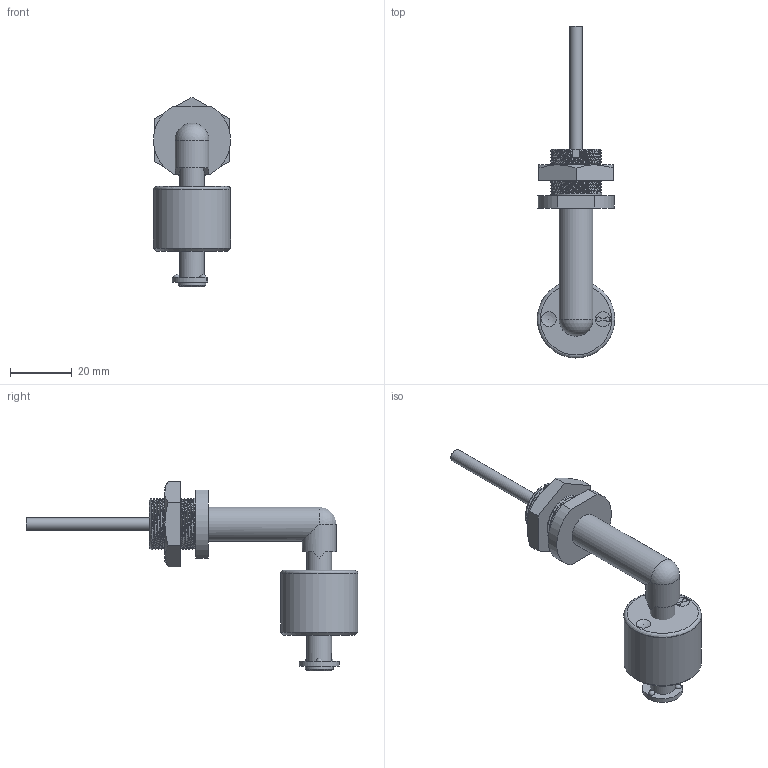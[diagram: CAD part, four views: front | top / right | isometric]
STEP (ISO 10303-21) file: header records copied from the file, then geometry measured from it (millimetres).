
FILE_DESCRIPTION(/* description */ ('Katalogmodell Elobau'),/* implementation_level */ '2;1');
FILE_NAME(/* name */ '2018_0_A.stp',/* time_stamp */ '2014-10-08T14:28:59+02:00',/* author */ ('Elobau GmbH & Co. KG'),/* organization */ ('Elobau GmbH & Co. KG'),/* preprocessor_version */ 'ST-DEVELOPER v15',/* originating_system */ 'SIEMENS PLM Software NX 8.5',/* authorisation */ '');
FILE_SCHEMA (('AUTOMOTIVE_DESIGN { 1 0 10303 214 3 1 1 1 }'));
Length unit declared in the file: millimetre
Products named in the file (1): 2018.0_A
Bounding box: 25.11 x 107.55 x 61.35 mm (x, y, z)
Volume: 24579.7 mm3; surface area: 9566.5 mm2
Topology: 3 solids, 3 shells, 104 faces, 271 edges, 175 vertices
Faces by surface type: plane 40, cylinder 39, cone 10, bspline 10, sphere 5
Full cylindrical faces by diameter (mm): 4.1 x1, 4.982 x1, 8 x1, 9 x1, 11 x2, 16.66 x12, 25 x1
Entity records: 14563 total; most frequent: CARTESIAN_POINT 11977, ORIENTED_EDGE 416, DIRECTION 390, EDGE_CURVE 208, AXIS2_PLACEMENT_3D 156, VERTEX_POINT 140, EDGE_LOOP 109, ADVANCED_FACE 92
